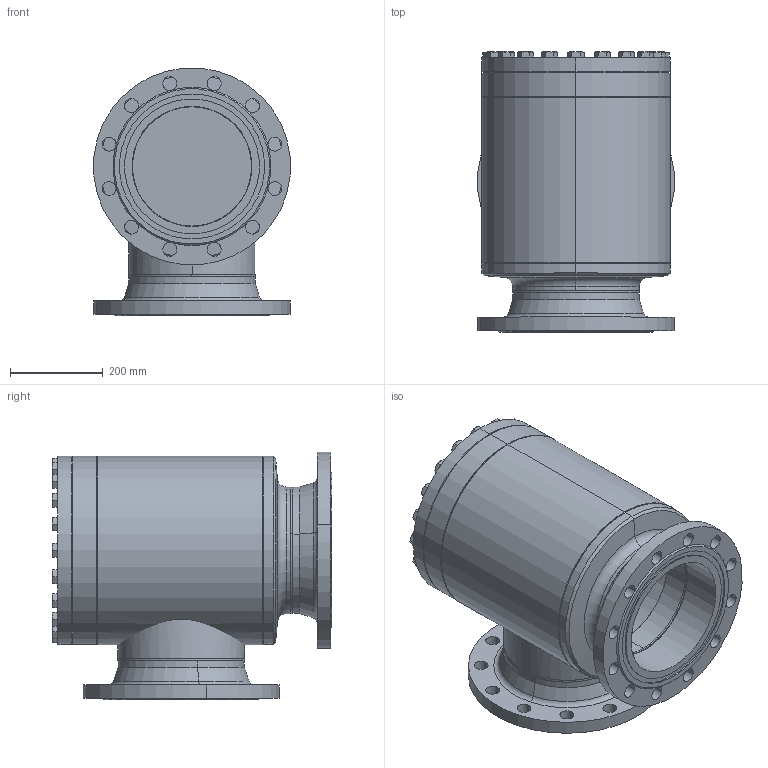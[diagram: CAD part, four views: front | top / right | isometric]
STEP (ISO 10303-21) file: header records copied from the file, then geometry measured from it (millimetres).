
FILE_DESCRIPTION (( 'STEP AP214' ), '1' );
FILE_NAME ('SS52420C24-DN250_DIN-FL-N_PS25.STEP', '2006-05-02T05:53:24', ( 'Herr Grams' ), ( 'AWP GmbH' ), 'SwSTEP 2.0', 'SolidWorks 2002296', '' );
FILE_SCHEMA (( 'AUTOMOTIVE_DESIGN' ));
Length unit declared in the file: millimetre
Products named in the file (14): SS52420C24-DN250_DIN-FL-N_PS25; Gehäuse-kpl26420-DN250_DIN_PS25_Standard; bead-DN250-3_Standard; bead-DN250-4_Standard; bead-DN250-2_Standard; bead-DN250-1_Standard; Gehäuse26300-DN250_Standard; Kopfstück26300-DN250_Standard; Boden26300-DN250_Standard; Rohrstutzen-A26300-DN250_R1_Standard; Flansch-DIN2634-Nut_PS25_DIN-Flansch-DN250_PS25-Nut; SS52300B24_Deck+Schr-DN250_Standard; Deckel52300B24-DN250_Standard; Sechskantschraube-DIN933_M20x 60
Assembly tree (33 placements, depth 3):
  SS52420C24-DN250_DIN-FL-N_PS25
    Gehäuse-kpl26420-DN250_DIN_PS25_Standard
      bead-DN250-1_Standard
      Boden26300-DN250_Standard
      bead-DN250-3_Standard
      bead-DN250-4_Standard
      Rohrstutzen-A26300-DN250_R1_Standard
      Gehäuse26300-DN250_Standard
      bead-DN250-2_Standard
      Flansch-DIN2634-Nut_PS25_DIN-Flansch-DN250_PS25-Nut  x2
      Kopfstück26300-DN250_Standard
    SS52300B24_Deck+Schr-DN250_Standard
      Sechskantschraube-DIN933_M20x 60  x20
      Deckel52300B24-DN250_Standard
Bounding box: 423.38 x 603.5 x 533.75 mm (x, y, z)
Volume: 26382328.3 mm3; surface area: 2903909.2 mm2
Topology: 31 solids, 31 shells, 719 faces, 1646 edges, 992 vertices
Faces by surface type: cone 308, plane 212, cylinder 177, bspline 16, torus 6
Entity records: 10914 total; most frequent: CARTESIAN_POINT 5128, DIRECTION 1098, ORIENTED_EDGE 1008, EDGE_CURVE 504, AXIS2_PLACEMENT_3D 480, VERTEX_POINT 322, EDGE_LOOP 272, CIRCLE 262
